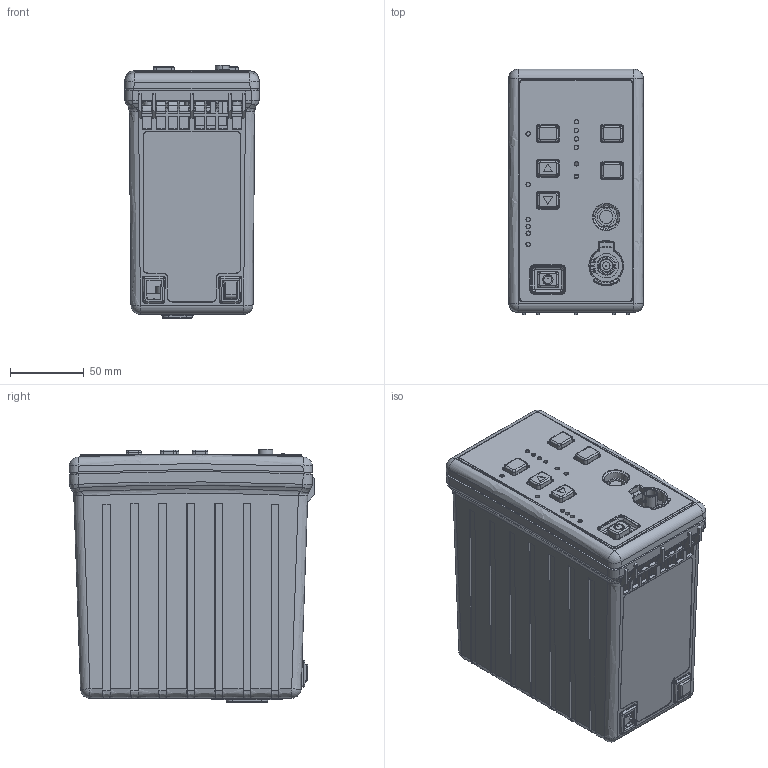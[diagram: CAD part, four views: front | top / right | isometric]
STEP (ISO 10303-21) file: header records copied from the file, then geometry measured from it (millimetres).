
FILE_DESCRIPTION((''),'2;1');
FILE_NAME('GREEN_ACRES_ASM','2026-04-01T09:04:18',('mthomps2'),(''),'CREO PARAMETRIC BY PTC INC, 2022284','CREO PARAMETRIC BY PTC INC, 2022284','');
FILE_SCHEMA(('CONFIG_CONTROL_DESIGN','SHAPE_APPEARANCE_LAYERS_GROUPS'));
Length unit declared in the file: inch
Products named in the file (12): PANEL_REAR_GA_AF0; LINEINPUT_119042000_RAP_AF0; LABEL_BACK_GA_AF0; HOUSING-MAIN_GA_AF0; BEZEL-FRONT_GA_AF0; CONN_BNC_RF-PNL_TH_F_RA_50O_LIB_AF0; FAN_50MM_AF0; SWITCHMAT_GA_AF0; PROBE_CONN-RTANGLE_GA_AF0; LABEL_FRONT300_GA_AF0; 348152500_AF0; GREEN_ACRES_ASM
Assembly tree (11 placements, depth 2):
  GREEN_ACRES_ASM
    PANEL_REAR_GA_AF0
    LINEINPUT_119042000_RAP_AF0
    LABEL_BACK_GA_AF0
    HOUSING-MAIN_GA_AF0
    BEZEL-FRONT_GA_AF0
    CONN_BNC_RF-PNL_TH_F_RA_50O_LIB_AF0
    FAN_50MM_AF0
    SWITCHMAT_GA_AF0
    PROBE_CONN-RTANGLE_GA_AF0
    LABEL_FRONT300_GA_AF0
    348152500_AF0
Bounding box: 91.44 x 166.77 x 171.55 mm (x, y, z)
Volume: 309865.2 mm3; surface area: 309613.5 mm2
Topology: 11 solids, 11 shells, 3693 faces, 9306 edges, 5730 vertices
Faces by surface type: plane 1614, cylinder 776, bspline 637, cone 288, torus 189, extrusion 131, sphere 58
Entity records: 156220 total; most frequent: CARTESIAN_POINT 51669, ORIENTED_EDGE 18608, DIRECTION 15156, EDGE_CURVE 9304, PRESENTATION_STYLE_ASSIGNMENT 6879, STYLED_ITEM 6879, CURVE_STYLE 6870, VERTEX_POINT 5729
